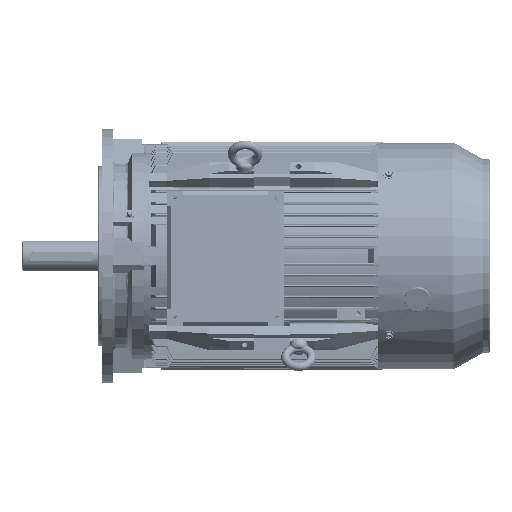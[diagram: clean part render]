
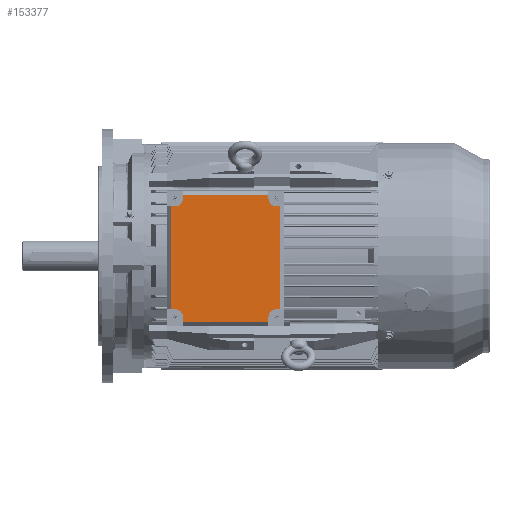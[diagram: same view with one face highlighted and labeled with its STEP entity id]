
A CAD part, top view. The second image highlights one B-rep face of the part: STEP entity #153377.
In plain terms, the highlighted planar face has unit normal (0, 0, 1).
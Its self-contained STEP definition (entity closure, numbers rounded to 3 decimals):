
#3785 = LINE ( 'NONE', #7811, #66738 ) ;
#5964 = CARTESIAN_POINT ( 'NONE',  ( 94.157, 90.864, 241.65 ) ) ;
#7620 = ORIENTED_EDGE ( 'NONE', *, *, #69190, .F. ) ;
#7811 = CARTESIAN_POINT ( 'NONE',  ( -39.843, 112.864, 241.65 ) ) ;
#11478 = VERTEX_POINT ( 'NONE', #109857 ) ;
#13287 = ORIENTED_EDGE ( 'NONE', *, *, #46388, .T. ) ;
#13453 = CIRCLE ( 'NONE', #61352, 11. ) ;
#13752 = CIRCLE ( 'NONE', #118264, 11. ) ;
#16010 = LINE ( 'NONE', #235042, #95591 ) ;
#16258 = VECTOR ( 'NONE', #166473, 1000. ) ;
#17502 = CARTESIAN_POINT ( 'NONE',  ( 89.157, 90.864, 241.65 ) ) ;
#18116 = VERTEX_POINT ( 'NONE', #244552 ) ;
#20395 = ORIENTED_EDGE ( 'NONE', *, *, #66237, .F. ) ;
#21122 = VERTEX_POINT ( 'NONE', #208303 ) ;
#21540 = CARTESIAN_POINT ( 'NONE',  ( -39.843, -62.136, 241.65 ) ) ;
#33084 = CARTESIAN_POINT ( 'NONE',  ( -61.843, 112.864, 241.65 ) ) ;
#33811 = EDGE_CURVE ( 'NONE', #230781, #195820, #42161, .T. ) ;
#39496 = CARTESIAN_POINT ( 'NONE',  ( 100.157, 90.864, 241.65 ) ) ;
#40851 = DIRECTION ( 'NONE',  ( 1., 0., 0. ) ) ;
#42161 = LINE ( 'NONE', #162447, #16258 ) ;
#43946 = CARTESIAN_POINT ( 'NONE',  ( 89.157, 101.864, 241.65 ) ) ;
#44837 = VERTEX_POINT ( 'NONE', #137369 ) ;
#46388 = EDGE_CURVE ( 'NONE', #11478, #117195, #117962, .T. ) ;
#46586 = CARTESIAN_POINT ( 'NONE',  ( -39.843, 106.864, 241.65 ) ) ;
#50857 = FACE_OUTER_BOUND ( 'NONE', #53235, .T. ) ;
#52097 = DIRECTION ( 'NONE',  ( -1., 0., 0. ) ) ;
#52295 = EDGE_CURVE ( 'NONE', #195820, #203853, #13453, .T. ) ;
#52941 = DIRECTION ( 'NONE',  ( -1., 0., 0. ) ) ;
#52996 = EDGE_CURVE ( 'NONE', #177786, #193368, #186998, .T. ) ;
#53235 = EDGE_LOOP ( 'NONE', ( #86288, #149797, #218606, #269369, #250698, #98110, #111921, #115829, #122399, #60215, #209261, #142032, #20395, #13287, #7620, #91418 ) ) ;
#60215 = ORIENTED_EDGE ( 'NONE', *, *, #87378, .T. ) ;
#60961 = VERTEX_POINT ( 'NONE', #46586 ) ;
#61352 = AXIS2_PLACEMENT_3D ( 'NONE', #157403, #263959, #76762 ) ;
#61395 = VERTEX_POINT ( 'NONE', #232071 ) ;
#61724 = EDGE_CURVE ( 'NONE', #61395, #196928, #144394, .T. ) ;
#65831 = LINE ( 'NONE', #147830, #230370 ) ;
#66237 = EDGE_CURVE ( 'NONE', #11478, #233236, #164683, .T. ) ;
#66738 = VECTOR ( 'NONE', #108949, 1000. ) ;
#69190 = EDGE_CURVE ( 'NONE', #44837, #117195, #181206, .T. ) ;
#69794 = EDGE_CURVE ( 'NONE', #152959, #44837, #151114, .T. ) ;
#72843 = CARTESIAN_POINT ( 'NONE',  ( -55.843, 90.864, 241.65 ) ) ;
#76762 = DIRECTION ( 'NONE',  ( 0., 1., 0. ) ) ;
#76907 = CARTESIAN_POINT ( 'NONE',  ( -50.843, -62.136, 241.65 ) ) ;
#77288 = DIRECTION ( 'NONE',  ( 0., 1., 0. ) ) ;
#77964 = AXIS2_PLACEMENT_3D ( 'NONE', #33084, #116410, #123132 ) ;
#85014 = LINE ( 'NONE', #126033, #211328 ) ;
#86288 = ORIENTED_EDGE ( 'NONE', *, *, #198836, .F. ) ;
#86427 = CARTESIAN_POINT ( 'NONE',  ( 89.157, -62.136, 241.65 ) ) ;
#87378 = EDGE_CURVE ( 'NONE', #230781, #114459, #65831, .T. ) ;
#91418 = ORIENTED_EDGE ( 'NONE', *, *, #69794, .F. ) ;
#95591 = VECTOR ( 'NONE', #52941, 1000. ) ;
#95798 = LINE ( 'NONE', #198257, #185361 ) ;
#98110 = ORIENTED_EDGE ( 'NONE', *, *, #205123, .T. ) ;
#98882 = EDGE_CURVE ( 'NONE', #233236, #18116, #141117, .T. ) ;
#100083 = EDGE_CURVE ( 'NONE', #21122, #193368, #85014, .T. ) ;
#101921 = AXIS2_PLACEMENT_3D ( 'NONE', #76907, #102805, #246273 ) ;
#102805 = DIRECTION ( 'NONE',  ( 0., 0., 1. ) ) ;
#108949 = DIRECTION ( 'NONE',  ( 0., 1., 0. ) ) ;
#109857 = CARTESIAN_POINT ( 'NONE',  ( -39.843, -68.136, 241.65 ) ) ;
#111921 = ORIENTED_EDGE ( 'NONE', *, *, #267136, .F. ) ;
#114459 = VERTEX_POINT ( 'NONE', #119096 ) ;
#115713 = CARTESIAN_POINT ( 'NONE',  ( 78.157, -74.136, 241.65 ) ) ;
#115829 = ORIENTED_EDGE ( 'NONE', *, *, #52295, .F. ) ;
#116410 = DIRECTION ( 'NONE',  ( 0., 0., 1. ) ) ;
#116784 = CARTESIAN_POINT ( 'NONE',  ( 78.157, 101.864, 241.65 ) ) ;
#117195 = VERTEX_POINT ( 'NONE', #136673 ) ;
#117962 = LINE ( 'NONE', #198575, #146701 ) ;
#118264 = AXIS2_PLACEMENT_3D ( 'NONE', #43946, #145071, #143739 ) ;
#119096 = CARTESIAN_POINT ( 'NONE',  ( -55.843, -51.136, 241.65 ) ) ;
#122399 = ORIENTED_EDGE ( 'NONE', *, *, #33811, .F. ) ;
#123132 = DIRECTION ( 'NONE',  ( 0., -1., 0. ) ) ;
#126033 = CARTESIAN_POINT ( 'NONE',  ( 94.157, 90.864, 241.65 ) ) ;
#136673 = CARTESIAN_POINT ( 'NONE',  ( 78.157, -68.136, 241.65 ) ) ;
#137369 = CARTESIAN_POINT ( 'NONE',  ( 78.157, -62.136, 241.65 ) ) ;
#141117 = CIRCLE ( 'NONE', #101921, 11. ) ;
#142032 = ORIENTED_EDGE ( 'NONE', *, *, #98882, .F. ) ;
#143739 = DIRECTION ( 'NONE',  ( 0., -1., 0. ) ) ;
#144394 = LINE ( 'NONE', #233115, #207586 ) ;
#145071 = DIRECTION ( 'NONE',  ( 0., 0., 1. ) ) ;
#146701 = VECTOR ( 'NONE', #220410, 1000. ) ;
#147830 = CARTESIAN_POINT ( 'NONE',  ( -55.843, -51.136, 241.65 ) ) ;
#148924 = DIRECTION ( 'NONE',  ( -1., 0., 0. ) ) ;
#149797 = ORIENTED_EDGE ( 'NONE', *, *, #100083, .T. ) ;
#151114 = CIRCLE ( 'NONE', #238311, 11. ) ;
#152959 = VERTEX_POINT ( 'NONE', #227261 ) ;
#153377 = ADVANCED_FACE ( 'NONE', ( #50857 ), #177882, .T. ) ;
#157403 = CARTESIAN_POINT ( 'NONE',  ( -50.843, 101.864, 241.65 ) ) ;
#162447 = CARTESIAN_POINT ( 'NONE',  ( -61.843, 90.864, 241.65 ) ) ;
#164015 = VECTOR ( 'NONE', #198995, 1000. ) ;
#164683 = LINE ( 'NONE', #242635, #176524 ) ;
#166473 = DIRECTION ( 'NONE',  ( 1., 0., 0. ) ) ;
#166749 = VECTOR ( 'NONE', #148924, 1000. ) ;
#167435 = CARTESIAN_POINT ( 'NONE',  ( -50.843, 90.864, 241.65 ) ) ;
#169784 = DIRECTION ( 'NONE',  ( 0., 0., 1. ) ) ;
#170597 = VECTOR ( 'NONE', #40851, 1000. ) ;
#176253 = EDGE_CURVE ( 'NONE', #196928, #177786, #13752, .T. ) ;
#176524 = VECTOR ( 'NONE', #77288, 1000. ) ;
#177786 = VERTEX_POINT ( 'NONE', #17502 ) ;
#177882 = PLANE ( 'NONE',  #77964 ) ;
#179865 = CARTESIAN_POINT ( 'NONE',  ( -39.843, 101.864, 241.65 ) ) ;
#181206 = LINE ( 'NONE', #115713, #164015 ) ;
#185361 = VECTOR ( 'NONE', #52097, 1000. ) ;
#186998 = LINE ( 'NONE', #39496, #170597 ) ;
#188588 = LINE ( 'NONE', #209083, #166749 ) ;
#190204 = DIRECTION ( 'NONE',  ( 0., 1., 0. ) ) ;
#193368 = VERTEX_POINT ( 'NONE', #5964 ) ;
#195820 = VERTEX_POINT ( 'NONE', #167435 ) ;
#196928 = VERTEX_POINT ( 'NONE', #116784 ) ;
#198257 = CARTESIAN_POINT ( 'NONE',  ( 100.157, -51.136, 241.65 ) ) ;
#198575 = CARTESIAN_POINT ( 'NONE',  ( 78.157, -68.136, 241.65 ) ) ;
#198836 = EDGE_CURVE ( 'NONE', #21122, #152959, #95798, .T. ) ;
#198995 = DIRECTION ( 'NONE',  ( 0., -1., 0. ) ) ;
#203853 = VERTEX_POINT ( 'NONE', #179865 ) ;
#205123 = EDGE_CURVE ( 'NONE', #61395, #60961, #16010, .T. ) ;
#207586 = VECTOR ( 'NONE', #231750, 1000. ) ;
#208303 = CARTESIAN_POINT ( 'NONE',  ( 94.157, -51.136, 241.65 ) ) ;
#209083 = CARTESIAN_POINT ( 'NONE',  ( -61.843, -51.136, 241.65 ) ) ;
#209261 = ORIENTED_EDGE ( 'NONE', *, *, #254994, .F. ) ;
#211328 = VECTOR ( 'NONE', #190204, 1000. ) ;
#212038 = DIRECTION ( 'NONE',  ( 0., -1., 0. ) ) ;
#213463 = DIRECTION ( 'NONE',  ( 0., 1., 0. ) ) ;
#218606 = ORIENTED_EDGE ( 'NONE', *, *, #52996, .F. ) ;
#220410 = DIRECTION ( 'NONE',  ( 1., 0., 0. ) ) ;
#227261 = CARTESIAN_POINT ( 'NONE',  ( 89.157, -51.136, 241.65 ) ) ;
#230370 = VECTOR ( 'NONE', #212038, 1000. ) ;
#230781 = VERTEX_POINT ( 'NONE', #72843 ) ;
#231750 = DIRECTION ( 'NONE',  ( 0., -1., 0. ) ) ;
#232071 = CARTESIAN_POINT ( 'NONE',  ( 78.157, 106.864, 241.65 ) ) ;
#233115 = CARTESIAN_POINT ( 'NONE',  ( 78.157, 112.864, 241.65 ) ) ;
#233236 = VERTEX_POINT ( 'NONE', #21540 ) ;
#235042 = CARTESIAN_POINT ( 'NONE',  ( -39.843, 106.864, 241.65 ) ) ;
#238311 = AXIS2_PLACEMENT_3D ( 'NONE', #86427, #169784, #213463 ) ;
#242635 = CARTESIAN_POINT ( 'NONE',  ( -39.843, -74.136, 241.65 ) ) ;
#244552 = CARTESIAN_POINT ( 'NONE',  ( -50.843, -51.136, 241.65 ) ) ;
#246273 = DIRECTION ( 'NONE',  ( 0., -1., 0. ) ) ;
#250698 = ORIENTED_EDGE ( 'NONE', *, *, #61724, .F. ) ;
#254994 = EDGE_CURVE ( 'NONE', #18116, #114459, #188588, .T. ) ;
#263959 = DIRECTION ( 'NONE',  ( 0., 0., 1. ) ) ;
#267136 = EDGE_CURVE ( 'NONE', #203853, #60961, #3785, .T. ) ;
#269369 = ORIENTED_EDGE ( 'NONE', *, *, #176253, .F. ) ;
